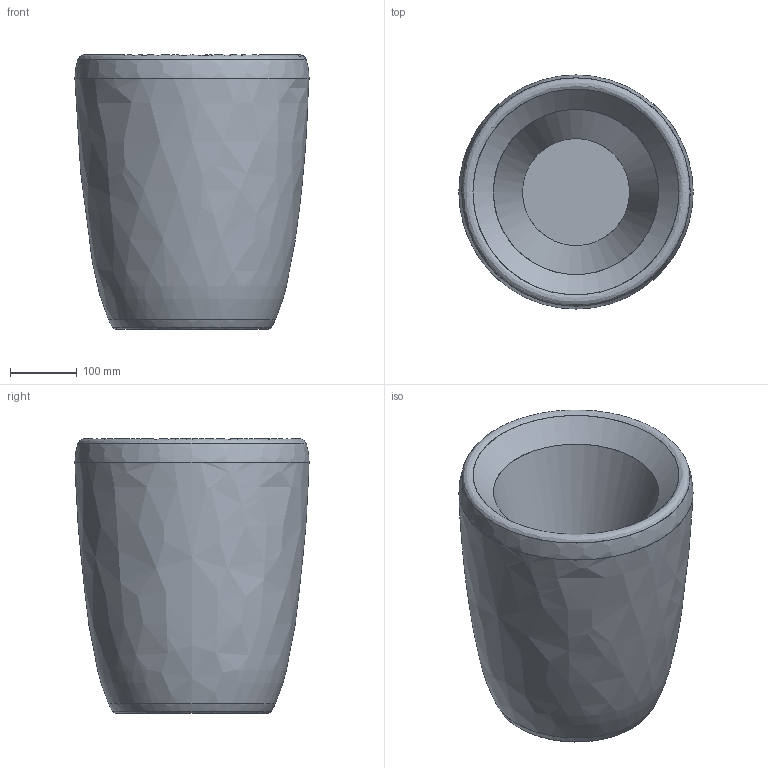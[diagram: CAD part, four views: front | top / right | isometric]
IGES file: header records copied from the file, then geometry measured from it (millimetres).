
Start section: SolidWorks IGES file using NURBS representation for surfaces
Global section: file name: Z:\Modele 3D_WWW\_KOLEKCJE WWW\FLOWERPOT\FLOWERPOT-S-9711\FLOWERPOT-S-9711.IGS; native system: SolidWorks 2021; preprocessor: SolidWorks 2021; author: gabriela.tworek; date: 220202.083914; units: millimetre
Bounding box: 350 x 349.99 x 410 mm (x, y, z)
Surface area: 1227416.5 mm2 (no closed solid volume)
Topology: 0 solids, 0 shells, 18 faces, 78 edges, 64 vertices
Faces by surface type: bspline 18
